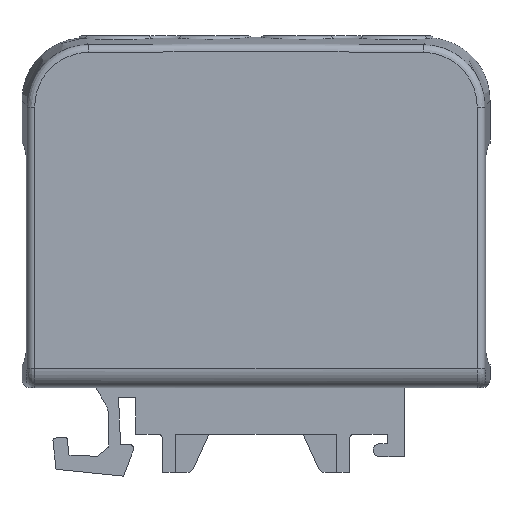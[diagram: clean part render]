
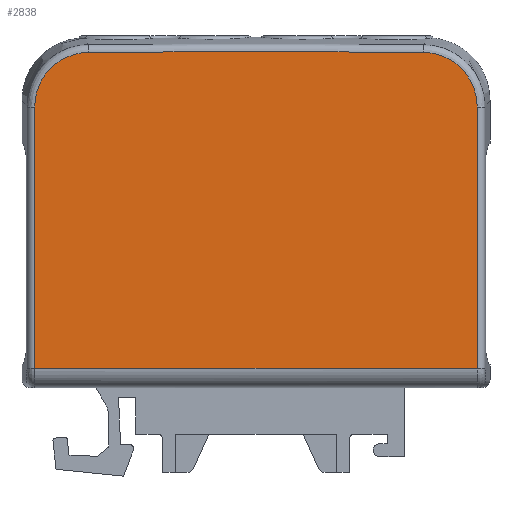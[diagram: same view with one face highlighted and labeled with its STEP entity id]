
A CAD part, front view. The second image highlights one B-rep face of the part: STEP entity #2838.
In plain terms, the highlighted planar face has unit normal (0, -1, 0).
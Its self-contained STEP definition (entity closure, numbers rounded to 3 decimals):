
#37=B_SPLINE_CURVE_WITH_KNOTS('',3,(#4553,#4554,#4555,#4556,#4557,#4558),
 .UNSPECIFIED.,.F.,.F.,(4,1,1,4),(0.,0.005,
0.008,0.011),.UNSPECIFIED.);
#66=B_SPLINE_CURVE_WITH_KNOTS('',3,(#5099,#5100,#5101,#5102,#5103,#5104),
 .UNSPECIFIED.,.F.,.F.,(4,1,1,4),(0.,0.005,0.008,
0.011),.UNSPECIFIED.);
#330=LINE('',#4529,#578);
#342=LINE('',#5091,#590);
#344=LINE('',#5097,#592);
#578=VECTOR('',#3654,1000.);
#590=VECTOR('',#3736,1000.);
#592=VECTOR('',#3742,1000.);
#1313=ORIENTED_EDGE('',*,*,#1758,.T.);
#1314=ORIENTED_EDGE('',*,*,#1756,.T.);
#1315=ORIENTED_EDGE('',*,*,#1821,.F.);
#1316=ORIENTED_EDGE('',*,*,#1824,.T.);
#1317=ORIENTED_EDGE('',*,*,#1825,.T.);
#1318=ORIENTED_EDGE('',*,*,#1763,.T.);
#1756=EDGE_CURVE('',#2082,#2081,#330,.T.);
#1758=EDGE_CURVE('',#2083,#2082,#37,.T.);
#1763=EDGE_CURVE('',#2085,#2083,#2211,.T.);
#1821=EDGE_CURVE('',#2119,#2081,#342,.T.);
#1824=EDGE_CURVE('',#2119,#2121,#344,.F.);
#1825=EDGE_CURVE('',#2121,#2085,#66,.T.);
#2081=VERTEX_POINT('',#4526);
#2082=VERTEX_POINT('',#4530);
#2083=VERTEX_POINT('',#4559);
#2085=VERTEX_POINT('',#4571);
#2119=VERTEX_POINT('',#5092);
#2121=VERTEX_POINT('',#5098);
#2211=CIRCLE('',#3048,2498.13);
#2392=EDGE_LOOP('',(#1313,#1314,#1315,#1316,#1317,#1318));
#2577=FACE_BOUND('',#2392,.T.);
#2694=PLANE('',#3079);
#2838=ADVANCED_FACE('',(#2577),#2694,.T.);
#3048=AXIS2_PLACEMENT_3D('',#4574,#3665,#3666);
#3079=AXIS2_PLACEMENT_3D('',#5096,#3740,#3741);
#3654=DIRECTION('',(0.,0.,-1.));
#3665=DIRECTION('',(0.,-1.,0.));
#3666=DIRECTION('',(0.,0.,-1.));
#3736=DIRECTION('',(-1.,0.,0.));
#3740=DIRECTION('',(0.,-1.,0.));
#3741=DIRECTION('',(0.,0.,1.));
#3742=DIRECTION('',(0.,0.,-1.));
#4526=CARTESIAN_POINT('',(-28.409,-11.6,-20.));
#4529=CARTESIAN_POINT('',(-28.409,-11.6,0.));
#4530=CARTESIAN_POINT('',(-28.409,-11.6,13.53));
#4553=CARTESIAN_POINT('',(-21.512,-11.6,20.537));
#4554=CARTESIAN_POINT('',(-23.347,-11.6,20.521));
#4555=CARTESIAN_POINT('',(-26.029,-11.6,19.365));
#4556=CARTESIAN_POINT('',(-28.056,-11.6,16.253));
#4557=CARTESIAN_POINT('',(-28.409,-11.6,14.447));
#4558=CARTESIAN_POINT('',(-28.409,-11.6,13.53));
#4559=CARTESIAN_POINT('',(-21.512,-11.6,20.537));
#4571=CARTESIAN_POINT('',(21.512,-11.6,20.537));
#4574=CARTESIAN_POINT('',(0.,-11.6,-2477.5));
#5091=CARTESIAN_POINT('',(-29.35,-11.6,-20.));
#5092=CARTESIAN_POINT('',(28.409,-11.6,-20.));
#5096=CARTESIAN_POINT('',(0.,-11.6,0.));
#5097=CARTESIAN_POINT('',(28.409,-11.6,0.));
#5098=CARTESIAN_POINT('',(28.409,-11.6,13.53));
#5099=CARTESIAN_POINT('',(28.409,-11.6,13.53));
#5100=CARTESIAN_POINT('',(28.409,-11.6,15.364));
#5101=CARTESIAN_POINT('',(27.304,-11.6,18.064));
#5102=CARTESIAN_POINT('',(24.232,-11.6,20.152));
#5103=CARTESIAN_POINT('',(22.429,-11.6,20.529));
#5104=CARTESIAN_POINT('',(21.512,-11.6,20.537));
